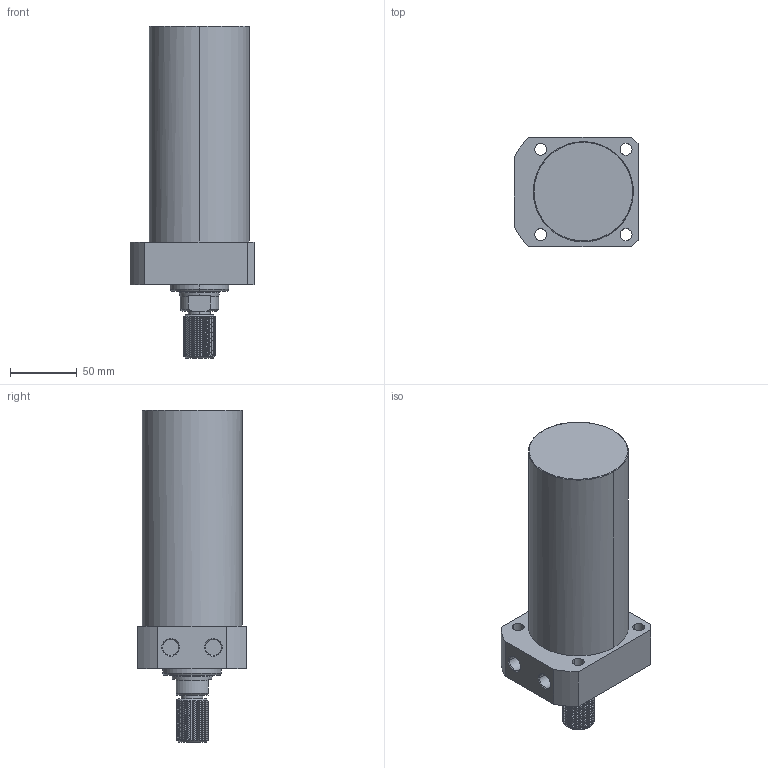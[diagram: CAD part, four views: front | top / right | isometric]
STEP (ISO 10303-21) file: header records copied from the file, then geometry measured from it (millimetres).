
FILE_DESCRIPTION((' '),'2;1');
FILE_NAME( 'TLLR-075CT-125.STEP.stp', '2025-10-24T16:35:13', (' '), ('--- Datakit www.datakit.com---'), ' Datakit CrossCadWare V2024.1 Dec 21 2023', 'Mastercam 2025', ' ');
FILE_SCHEMA(('AUTOMOTIVE_DESIGN { 1 0 10303 214 1 1 1 1 }'));
Length unit declared in the file: millimetre
Products named in the file (1): TLLR-075CT-125
Bounding box: 93 x 82 x 249 mm (x, y, z)
Volume: 972749.1 mm3; surface area: 74169.6 mm2
Topology: 1 solids, 1 shells, 109 faces, 396 edges, 298 vertices
Faces by surface type: cylinder 69, plane 21, cone 15, bspline 2, torus 2
Entity records: 12747 total; most frequent: CARTESIAN_POINT 9385, ORIENTED_EDGE 792, DIRECTION 545, EDGE_CURVE 396, VERTEX_POINT 298, AXIS2_PLACEMENT_3D 220, B_SPLINE_CURVE_WITH_KNOTS 179, EDGE_LOOP 126
